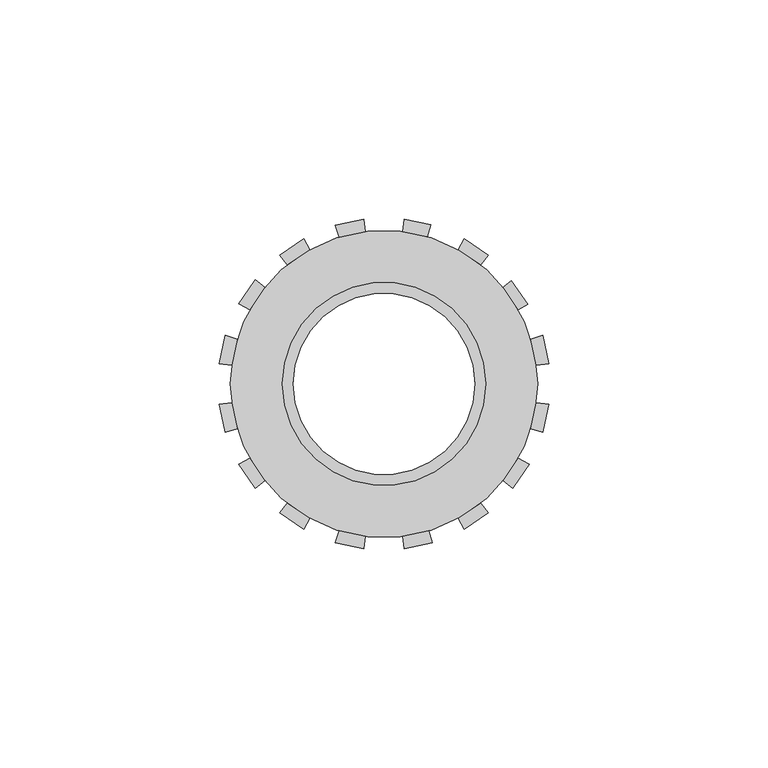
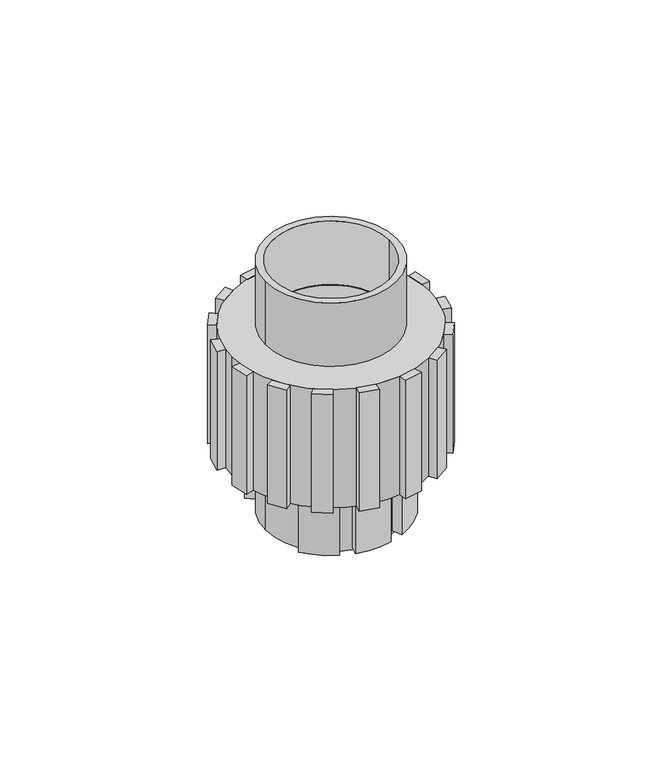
"""IFC4 building model written with IfcOpenShell, lengths in millimetres: valve geometry, Tuerca Union_Lubrizol_CPVC_FlowGuard_MX 38mm : Tuerca Union_Lubrizol_CPVC_FlowGuard_MX 38mm."""

from ifc_helpers import new_model, si_unit, point, frame, frame_2d, origin, origin_with_axes, origin_2d, place, context, project, spatial, polyline, circle_curve, trimmed, segment, composite_curve, outline, extrude, source, transform, mapped, element, save


def valve_482ad567(model_context):
    return source(origin(), model_context, "Body", "SweptSolid", [
        extrude(outline(composite_curve([segment(polyline([(-5.3887464, 22.5140825), (-6.3037903, 25.9290729)]), True, "CONTINUOUS"), segment(trimmed(circle_curve(origin_2d(), 26.6843511), [point((-6.3037903, 25.9290729))], [point((6.3037903, 25.9290729))], False, "CARTESIAN"), True, "CONTINUOUS"), segment(polyline([(6.3037903, 25.9290729), (5.3887464, 22.5140825)]), True, "CONTINUOUS"), segment(trimmed(circle_curve(origin_2d(), 23.15), [point((5.3887464, 22.5140825))], [point((-5.3887464, 22.5140825))], True, "CARTESIAN"), True, "CONTINUOUS")], self_intersect=False)), frame((0.0, 0.0, 1.0184482), z_axis=(0.0, 0.0, 1.0), x_axis=(1.0, 0.0, 0.0)), (0.0, 0.0, 1.0), 27.9325122),
        extrude(outline(composite_curve([segment(trimmed(circle_curve(origin_2d(), 23.15), [point((-9.6146631, 21.0589827))], [point((-18.1074434, 14.4236956))], True, "CARTESIAN"), True, "CONTINUOUS"), segment(polyline([(-18.1074434, 14.4236956), (-20.9309859, 16.5513874)]), True, "CONTINUOUS"), segment(trimmed(circle_curve(origin_2d(), 26.6843511), [point((-20.9309859, 16.5513874))], [point((-10.9960767, 24.3133892))], False, "CARTESIAN"), True, "CONTINUOUS"), segment(polyline([(-10.9960767, 24.3133892), (-9.6146631, 21.0589827)]), True, "CONTINUOUS")], self_intersect=False)), frame((0.0, 0.0, 1.0184482), z_axis=(0.0, 0.0, 1.0), x_axis=(1.0, 0.0, 0.0)), (0.0, 0.0, 1.0), 27.9325122),
        extrude(outline(composite_curve([segment(polyline([(9.6146631, 21.0589827), (10.9960767, 24.3133892)]), True, "CONTINUOUS"), segment(trimmed(circle_curve(origin_2d(), 26.6843511), [point((10.9960767, 24.3133892))], [point((20.849333, 16.6541259))], False, "CARTESIAN"), True, "CONTINUOUS"), segment(polyline([(20.849333, 16.6541259), (18.0253779, 14.5261231)]), True, "CONTINUOUS"), segment(trimmed(circle_curve(origin_2d(), 23.15), [point((18.0253779, 14.5261231))], [point((9.6146631, 21.0589827))], True, "CARTESIAN"), True, "CONTINUOUS")], self_intersect=False)), frame((0.0, 0.0, 1.0184482), z_axis=(0.0, 0.0, 1.0), x_axis=(1.0, 0.0, 0.0)), (0.0, 0.0, 1.0), 27.9325122),
        extrude(outline(composite_curve([segment(trimmed(circle_curve(origin_2d(), 23.15), [point((-5.3887464, -22.5140825))], [point((5.3887464, -22.5140825))], True, "CARTESIAN"), True, "CONTINUOUS"), segment(polyline([(5.3887464, -22.5140825), (6.3037903, -25.9290729)]), True, "CONTINUOUS"), segment(trimmed(circle_curve(origin_2d(), 26.6843511), [point((6.3037903, -25.9290729))], [point((-6.3037903, -25.9290729))], False, "CARTESIAN"), True, "CONTINUOUS"), segment(polyline([(-6.3037903, -25.9290729), (-5.3887464, -22.5140825)]), True, "CONTINUOUS")], self_intersect=False)), frame((0.0, 0.0, 1.0184482), z_axis=(0.0, 0.0, 1.0), x_axis=(1.0, 0.0, 0.0)), (0.0, 0.0, 1.0), 27.9325122),
        extrude(outline(composite_curve([segment(polyline([(-9.6146631, -21.0589827), (-10.9960767, -24.3133892)]), True, "CONTINUOUS"), segment(trimmed(circle_curve(origin_2d(), 26.6843511), [point((-10.9960767, -24.3133892))], [point((-20.9309859, -16.5513874))], False, "CARTESIAN"), True, "CONTINUOUS"), segment(polyline([(-20.9309859, -16.5513874), (-18.1074434, -14.4236956)]), True, "CONTINUOUS"), segment(trimmed(circle_curve(origin_2d(), 23.15), [point((-18.1074434, -14.4236956))], [point((-9.6146631, -21.0589827))], True, "CARTESIAN"), True, "CONTINUOUS")], self_intersect=False)), frame((0.0, 0.0, 1.0184482), z_axis=(0.0, 0.0, 1.0), x_axis=(1.0, 0.0, 0.0)), (0.0, 0.0, 1.0), 27.9325122),
        extrude(outline(composite_curve([segment(trimmed(circle_curve(origin_2d(), 23.15), [point((9.6146631, -21.0589827))], [point((18.1074434, -14.4236956))], True, "CARTESIAN"), True, "CONTINUOUS"), segment(polyline([(18.1074434, -14.4236956), (20.9309859, -16.5513874)]), True, "CONTINUOUS"), segment(trimmed(circle_curve(origin_2d(), 26.6843511), [point((20.9309859, -16.5513874))], [point((10.9960767, -24.3133892))], False, "CARTESIAN"), True, "CONTINUOUS"), segment(polyline([(10.9960767, -24.3133892), (9.6146631, -21.0589827)]), True, "CONTINUOUS")], self_intersect=False)), frame((0.0, 0.0, 1.0184482), z_axis=(0.0, 0.0, 1.0), x_axis=(1.0, 0.0, 0.0)), (0.0, 0.0, 1.0), 27.9325122),
        extrude(outline(composite_curve([segment(polyline([(-22.0262137, 27.2001087), (-23.7883108, 29.3761173)]), True, "CONTINUOUS"), segment(trimmed(circle_curve(origin_2d(), 37.8), [point((-23.7883108, 29.3761173))], [point((-18.3258036, 33.0606249))], False, "CARTESIAN"), True, "CONTINUOUS"), segment(polyline([(-18.3258036, 33.0606249), (-16.9683367, 30.6116897)]), True, "CONTINUOUS"), segment(trimmed(circle_curve(origin_2d(), 35.0), [point((-16.9683367, 30.6116897))], [point((-22.0262137, 27.2001087))], True, "CARTESIAN"), True, "CONTINUOUS")], self_intersect=False)), frame((0.0, 0.0, 24.6163159), z_axis=(0.0, 0.0, 1.0), x_axis=(1.0, 0.0, 0.0)), (0.0, 0.0, 1.0), 44.2154397),
        extrude(outline(composite_curve([segment(trimmed(circle_curve(origin_2d(), 35.0), [point((-4.265427, 34.7391153))], [point((-10.2330097, 33.4706665))], True, "CARTESIAN"), True, "CONTINUOUS"), segment(polyline([(-10.2330097, 33.4706665), (-11.0516504, 36.1483198)]), True, "CONTINUOUS"), segment(trimmed(circle_curve(origin_2d(), 37.8), [point((-11.0516504, 36.1483198))], [point((-4.6066612, 37.5182445))], False, "CARTESIAN"), True, "CONTINUOUS"), segment(polyline([(-4.6066612, 37.5182445), (-4.265427, 34.7391153)]), True, "CONTINUOUS")], self_intersect=False)), frame((0.0, 0.0, 24.6163159), z_axis=(0.0, 0.0, 1.0), x_axis=(1.0, 0.0, 0.0)), (0.0, 0.0, 1.0), 44.2154397),
        extrude(outline(composite_curve([segment(trimmed(circle_curve(origin_2d(), 35.0), [point((-27.2001087, 22.0262137))], [point((-30.6116897, 16.9683367))], True, "CARTESIAN"), True, "CONTINUOUS"), segment(polyline([(-30.6116897, 16.9683367), (-33.0606249, 18.3258036)]), True, "CONTINUOUS"), segment(trimmed(circle_curve(origin_2d(), 37.8), [point((-33.0606249, 18.3258036))], [point((-29.3761173, 23.7883108))], False, "CARTESIAN"), True, "CONTINUOUS"), segment(polyline([(-29.3761173, 23.7883108), (-27.2001087, 22.0262137)]), True, "CONTINUOUS")], self_intersect=False)), frame((0.0, 0.0, 24.6163159), z_axis=(0.0, 0.0, 1.0), x_axis=(1.0, 0.0, 0.0)), (0.0, 0.0, 1.0), 44.2154397),
        extrude(outline(composite_curve([segment(polyline([(-34.7391153, 4.265427), (-37.5182445, 4.6066612)]), True, "CONTINUOUS"), segment(trimmed(circle_curve(origin_2d(), 37.8), [point((-37.5182445, 4.6066612))], [point((-36.1483198, 11.0516504))], False, "CARTESIAN"), True, "CONTINUOUS"), segment(polyline([(-36.1483198, 11.0516504), (-33.4706665, 10.2330097)]), True, "CONTINUOUS"), segment(trimmed(circle_curve(origin_2d(), 35.0), [point((-33.4706665, 10.2330097))], [point((-34.7391153, 4.265427))], True, "CARTESIAN"), True, "CONTINUOUS")], self_intersect=False)), frame((0.0, 0.0, 24.6163159), z_axis=(0.0, 0.0, 1.0), x_axis=(1.0, 0.0, 0.0)), (0.0, 0.0, 1.0), 44.2154397),
        extrude(outline(composite_curve([segment(trimmed(circle_curve(origin_2d(), 35.0), [point((22.0262137, 27.2001087))], [point((16.9683367, 30.6116897))], True, "CARTESIAN"), True, "CONTINUOUS"), segment(polyline([(16.9683367, 30.6116897), (18.3258036, 33.0606249)]), True, "CONTINUOUS"), segment(trimmed(circle_curve(origin_2d(), 37.8), [point((18.3258036, 33.0606249))], [point((23.7883108, 29.3761173))], False, "CARTESIAN"), True, "CONTINUOUS"), segment(polyline([(23.7883108, 29.3761173), (22.0262137, 27.2001087)]), True, "CONTINUOUS")], self_intersect=False)), frame((0.0, 0.0, 24.6163159), z_axis=(0.0, 0.0, 1.0), x_axis=(1.0, 0.0, 0.0)), (0.0, 0.0, 1.0), 44.2154397),
        extrude(outline(composite_curve([segment(polyline([(4.265427, 34.7391153), (4.6066612, 37.5182445)]), True, "CONTINUOUS"), segment(trimmed(circle_curve(origin_2d(), 37.8), [point((4.6066612, 37.5182445))], [point((10.7055649, 36.2523224))], False, "CARTESIAN"), True, "CONTINUOUS"), segment(polyline([(10.7055649, 36.2523224), (9.8868837, 33.5745369)]), True, "CONTINUOUS"), segment(trimmed(circle_curve(origin_2d(), 35.0), [point((9.8868837, 33.5745369))], [point((4.265427, 34.7391153))], True, "CARTESIAN"), True, "CONTINUOUS")], self_intersect=False)), frame((0.0, 0.0, 24.6163159), z_axis=(0.0, 0.0, 1.0), x_axis=(1.0, 0.0, 0.0)), (0.0, 0.0, 1.0), 44.2154397),
        extrude(outline(composite_curve([segment(polyline([(27.2001087, 22.0262137), (28.999239, 23.4831207)]), True, "CONTINUOUS"), segment(trimmed(circle_curve(frame_2d((0.1538059, -0.9459807)), 37.8), [point((28.999239, 23.4831207))], [point((32.767749, 18.1634599))], False, "CARTESIAN"), True, "CONTINUOUS"), segment(polyline([(32.767749, 18.1634599), (30.6116897, 16.9683367)]), True, "CONTINUOUS"), segment(trimmed(circle_curve(origin_2d(), 35.0), [point((30.6116897, 16.9683367))], [point((27.2001087, 22.0262137))], True, "CARTESIAN"), True, "CONTINUOUS")], self_intersect=False)), frame((0.0, 0.0, 24.6163159), z_axis=(0.0, 0.0, 1.0), x_axis=(1.0, 0.0, 0.0)), (0.0, 0.0, 1.0), 44.2154397),
        extrude(outline(composite_curve([segment(trimmed(circle_curve(origin_2d(), 35.0), [point((34.7391153, 4.265427))], [point((33.4706665, 10.2330097))], True, "CARTESIAN"), True, "CONTINUOUS"), segment(polyline([(33.4706665, 10.2330097), (36.1483198, 11.0516504)]), True, "CONTINUOUS"), segment(trimmed(circle_curve(origin_2d(), 37.8), [point((36.1483198, 11.0516504))], [point((37.5182445, 4.6066612))], False, "CARTESIAN"), True, "CONTINUOUS"), segment(polyline([(37.5182445, 4.6066612), (34.7391153, 4.265427)]), True, "CONTINUOUS")], self_intersect=False)), frame((0.0, 0.0, 24.6163159), z_axis=(0.0, 0.0, 1.0), x_axis=(1.0, 0.0, 0.0)), (0.0, 0.0, 1.0), 44.2154397),
        extrude(outline(composite_curve([segment(trimmed(circle_curve(origin_2d(), 35.0), [point((-22.0262137, -27.2001087))], [point((-16.9683367, -30.6116897))], True, "CARTESIAN"), True, "CONTINUOUS"), segment(polyline([(-16.9683367, -30.6116897), (-18.3258036, -33.0606249)]), True, "CONTINUOUS"), segment(trimmed(circle_curve(origin_2d(), 37.8), [point((-18.3258036, -33.0606249))], [point((-23.7883108, -29.3761173))], False, "CARTESIAN"), True, "CONTINUOUS"), segment(polyline([(-23.7883108, -29.3761173), (-22.0262137, -27.2001087)]), True, "CONTINUOUS")], self_intersect=False)), frame((0.0, 0.0, 24.6163159), z_axis=(0.0, 0.0, 1.0), x_axis=(1.0, 0.0, 0.0)), (0.0, 0.0, 1.0), 44.2154397),
        extrude(outline(composite_curve([segment(polyline([(-4.265427, -34.7391153), (-4.6066612, -37.5182445)]), True, "CONTINUOUS"), segment(trimmed(circle_curve(origin_2d(), 37.8), [point((-4.6066612, -37.5182445))], [point((-11.0516504, -36.1483198))], False, "CARTESIAN"), True, "CONTINUOUS"), segment(polyline([(-11.0516504, -36.1483198), (-10.2330097, -33.4706665)]), True, "CONTINUOUS"), segment(trimmed(circle_curve(origin_2d(), 35.0), [point((-10.2330097, -33.4706665))], [point((-4.265427, -34.7391153))], True, "CARTESIAN"), True, "CONTINUOUS")], self_intersect=False)), frame((0.0, 0.0, 24.6163159), z_axis=(0.0, 0.0, 1.0), x_axis=(1.0, 0.0, 0.0)), (0.0, 0.0, 1.0), 44.2154397),
        extrude(outline(composite_curve([segment(polyline([(-27.2001087, -22.0262137), (-29.3761173, -23.7883108)]), True, "CONTINUOUS"), segment(trimmed(circle_curve(origin_2d(), 37.8), [point((-29.3761173, -23.7883108))], [point((-33.0606249, -18.3258036))], False, "CARTESIAN"), True, "CONTINUOUS"), segment(polyline([(-33.0606249, -18.3258036), (-30.6116897, -16.9683367)]), True, "CONTINUOUS"), segment(trimmed(circle_curve(origin_2d(), 35.0), [point((-30.6116897, -16.9683367))], [point((-27.2001087, -22.0262137))], True, "CARTESIAN"), True, "CONTINUOUS")], self_intersect=False)), frame((0.0, 0.0, 24.6163159), z_axis=(0.0, 0.0, 1.0), x_axis=(1.0, 0.0, 0.0)), (0.0, 0.0, 1.0), 44.2154397),
        extrude(outline(composite_curve([segment(trimmed(circle_curve(origin_2d(), 35.0), [point((-34.7391153, -4.265427))], [point((-33.4706665, -10.2330097))], True, "CARTESIAN"), True, "CONTINUOUS"), segment(polyline([(-33.4706665, -10.2330097), (-36.1483198, -11.0516504)]), True, "CONTINUOUS"), segment(trimmed(circle_curve(origin_2d(), 37.8), [point((-36.1483198, -11.0516504))], [point((-37.5182445, -4.6066612))], False, "CARTESIAN"), True, "CONTINUOUS"), segment(polyline([(-37.5182445, -4.6066612), (-34.7391153, -4.265427)]), True, "CONTINUOUS")], self_intersect=False)), frame((0.0, 0.0, 24.6163159), z_axis=(0.0, 0.0, 1.0), x_axis=(1.0, 0.0, 0.0)), (0.0, 0.0, 1.0), 44.2154397),
        extrude(outline(composite_curve([segment(polyline([(22.0262137, -27.2001087), (23.7883108, -29.3761173)]), True, "CONTINUOUS"), segment(trimmed(circle_curve(origin_2d(), 37.8), [point((23.7883108, -29.3761173))], [point((18.3258036, -33.0606249))], False, "CARTESIAN"), True, "CONTINUOUS"), segment(polyline([(18.3258036, -33.0606249), (16.9683367, -30.6116897)]), True, "CONTINUOUS"), segment(trimmed(circle_curve(origin_2d(), 35.0), [point((16.9683367, -30.6116897))], [point((22.0262137, -27.2001087))], True, "CARTESIAN"), True, "CONTINUOUS")], self_intersect=False)), frame((0.0, 0.0, 24.6163159), z_axis=(0.0, 0.0, 1.0), x_axis=(1.0, 0.0, 0.0)), (0.0, 0.0, 1.0), 44.2154397),
        extrude(outline(composite_curve([segment(trimmed(circle_curve(origin_2d(), 35.0), [point((4.265427, -34.7391153))], [point((10.2330097, -33.4706665))], True, "CARTESIAN"), True, "CONTINUOUS"), segment(polyline([(10.2330097, -33.4706665), (11.0516504, -36.1483198)]), True, "CONTINUOUS"), segment(trimmed(circle_curve(origin_2d(), 37.8), [point((11.0516504, -36.1483198))], [point((4.6066612, -37.5182445))], False, "CARTESIAN"), True, "CONTINUOUS"), segment(polyline([(4.6066612, -37.5182445), (4.265427, -34.7391153)]), True, "CONTINUOUS")], self_intersect=False)), frame((0.0, 0.0, 24.6163159), z_axis=(0.0, 0.0, 1.0), x_axis=(1.0, 0.0, 0.0)), (0.0, 0.0, 1.0), 44.2154397),
        extrude(outline(composite_curve([segment(trimmed(circle_curve(origin_2d(), 35.0), [point((27.2001087, -22.0262137))], [point((30.6116897, -16.9683367))], True, "CARTESIAN"), True, "CONTINUOUS"), segment(polyline([(30.6116897, -16.9683367), (33.0606249, -18.3258036)]), True, "CONTINUOUS"), segment(trimmed(circle_curve(origin_2d(), 37.8), [point((33.0606249, -18.3258036))], [point((29.3761173, -23.7883108))], False, "CARTESIAN"), True, "CONTINUOUS"), segment(polyline([(29.3761173, -23.7883108), (27.2001087, -22.0262137)]), True, "CONTINUOUS")], self_intersect=False)), frame((0.0, 0.0, 24.6163159), z_axis=(0.0, 0.0, 1.0), x_axis=(1.0, 0.0, 0.0)), (0.0, 0.0, 1.0), 44.2154397),
        extrude(outline(composite_curve([segment(polyline([(34.7391153, -4.265427), (37.5182445, -4.6066612)]), True, "CONTINUOUS"), segment(trimmed(circle_curve(origin_2d(), 37.8), [point((37.5182445, -4.6066612))], [point((36.1483198, -11.0516504))], False, "CARTESIAN"), True, "CONTINUOUS"), segment(polyline([(36.1483198, -11.0516504), (33.4706665, -10.2330097)]), True, "CONTINUOUS"), segment(trimmed(circle_curve(origin_2d(), 35.0), [point((33.4706665, -10.2330097))], [point((34.7391153, -4.265427))], True, "CARTESIAN"), True, "CONTINUOUS")], self_intersect=False)), frame((0.0, 0.0, 24.6163159), z_axis=(0.0, 0.0, 1.0), x_axis=(1.0, 0.0, 0.0)), (0.0, 0.0, 1.0), 44.2154397),
        extrude(outline(composite_curve([segment(trimmed(circle_curve(origin_2d(), 23.15), [point((-23.15, 0.0))], [point((23.15, 0.0))], False, "CARTESIAN"), True, "CONTINUOUS"), segment(trimmed(circle_curve(origin_2d(), 23.15), [point((23.15, 0.0))], [point((-23.15, 0.0))], False, "CARTESIAN"), True, "CONTINUOUS")], self_intersect=False), holes=[composite_curve([segment(trimmed(circle_curve(origin_2d(), 20.65), [point((-20.65, 0.0))], [point((20.65, 0.0))], True, "CARTESIAN"), True, "CONTINUOUS"), segment(trimmed(circle_curve(origin_2d(), 20.65), [point((20.65, 0.0))], [point((-20.65, 0.0))], True, "CARTESIAN"), True, "CONTINUOUS")], self_intersect=False)]), origin_with_axes(), (0.0, 0.0, 1.0), 28.9509604),
        extrude(outline(composite_curve([segment(trimmed(circle_curve(origin_2d(), 35.0), [point((-35.0, 0.0))], [point((35.0, 0.0))], False, "CARTESIAN"), True, "CONTINUOUS"), segment(trimmed(circle_curve(origin_2d(), 35.0), [point((35.0, 0.0))], [point((-35.0, 0.0))], False, "CARTESIAN"), True, "CONTINUOUS")], self_intersect=False), holes=[composite_curve([segment(trimmed(circle_curve(origin_2d(), 20.65), [point((-20.65, 0.0))], [point((20.65, 0.0))], True, "CARTESIAN"), True, "CONTINUOUS"), segment(trimmed(circle_curve(origin_2d(), 20.65), [point((20.65, 0.0))], [point((-20.65, 0.0))], True, "CARTESIAN"), True, "CONTINUOUS")], self_intersect=False)]), frame((0.0, 0.0, 24.6163159), z_axis=(0.0, 0.0, 1.0), x_axis=(1.0, 0.0, 0.0)), (0.0, 0.0, 1.0), 44.2154397),
        extrude(outline(composite_curve([segment(trimmed(circle_curve(origin_2d(), 23.15), [point((-23.15, 0.0))], [point((23.15, 0.0))], False, "CARTESIAN"), True, "CONTINUOUS"), segment(trimmed(circle_curve(origin_2d(), 23.15), [point((23.15, 0.0))], [point((-23.15, 0.0))], False, "CARTESIAN"), True, "CONTINUOUS")], self_intersect=False), holes=[composite_curve([segment(trimmed(circle_curve(origin_2d(), 20.65), [point((-20.65, 0.0))], [point((20.65, 0.0))], True, "CARTESIAN"), True, "CONTINUOUS"), segment(trimmed(circle_curve(origin_2d(), 20.65), [point((20.65, 0.0))], [point((-20.65, 0.0))], True, "CARTESIAN"), True, "CONTINUOUS")], self_intersect=False)]), frame((0.0, 0.0, 68.8317556), z_axis=(0.0, 0.0, 1.0), x_axis=(1.0, 0.0, 0.0)), (0.0, 0.0, 1.0), 23.9284772),
    ])


if __name__ == "__main__":
    model = new_model("IFC4")
    model_context = context("Model", 3, world=origin())
    ifc_project = project(units=[si_unit("LENGTHUNIT", "METRE", prefix="MILLI")], contexts=[model_context])
    site = spatial("IfcSite", under=ifc_project)
    building = spatial("IfcBuilding", under=site)
    placement = place(None, origin())
    valve_shape = valve_482ad567(model_context)
    element("IfcValve", 1, ObjectType="Tuerca Union_Lubrizol_CPVC_FlowGuard_MX 38mm : Tuerca Union_Lubrizol_CPVC_FlowGuard_MX 38mm", at=placement, inside=building, context=model_context, shape_type="MappedRepresentation", body=[
        mapped(valve_shape, transform((0.0, 0.0, 0.0), x_axis=(1.0, 0.0, 0.0), y_axis=(0.0, 1.0, 0.0), z_axis=(0.0, 0.0, 1.0))),
    ])
    save(model, "model.ifc")
